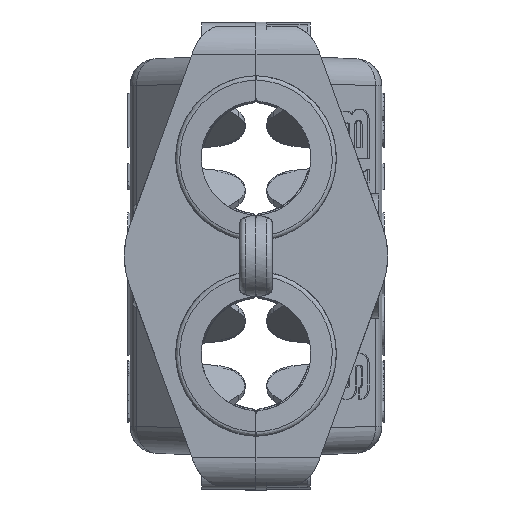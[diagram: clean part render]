
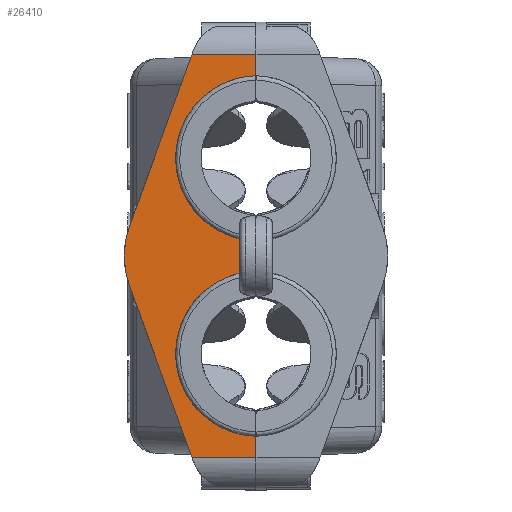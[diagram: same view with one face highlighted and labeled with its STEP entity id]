
A CAD part, left-side view. The second image highlights one B-rep face of the part: STEP entity #26410.
In plain terms, the highlighted planar face has unit normal (-1, 0, 0).
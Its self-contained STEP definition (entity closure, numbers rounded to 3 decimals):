
#225=DIRECTION('',(0.,0.,1.));
#226=VECTOR('',#225,4.);
#227=CARTESIAN_POINT('',(-47.5,0.,-18.55));
#228=LINE('',#227,#226);
#415=DIRECTION('',(0.,0.,1.));
#416=VECTOR('',#415,4.);
#417=CARTESIAN_POINT('',(-47.5,0.,14.55));
#418=LINE('',#417,#416);
#7492=DIRECTION('',(0.,-1.,0.));
#7493=VECTOR('',#7492,5.893);
#7494=CARTESIAN_POINT('',(-47.5,5.893,-18.55));
#7495=LINE('',#7494,#7493);
#7496=DIRECTION('',(0.,0.342,0.94));
#7497=VECTOR('',#7496,16.829);
#7498=CARTESIAN_POINT('',(-47.5,5.893,-18.55));
#7499=LINE('',#7498,#7497);
#7500=CARTESIAN_POINT('',(-47.5,4.131,0.));
#7501=DIRECTION('',(1.,0.,0.));
#7502=DIRECTION('',(0.,0.94,-0.342));
#7503=AXIS2_PLACEMENT_3D('',#7500,#7501,#7502);
#7505=DIRECTION('',(0.,-0.342,0.94));
#7506=VECTOR('',#7505,16.829);
#7507=CARTESIAN_POINT('',(-47.5,11.649,2.736));
#7508=LINE('',#7507,#7506);
#7509=DIRECTION('',(0.,-1.,0.));
#7510=VECTOR('',#7509,5.893);
#7511=CARTESIAN_POINT('',(-47.5,5.893,18.55));
#7512=LINE('',#7511,#7510);
#7513=CARTESIAN_POINT('',(-47.5,0.,9.));
#7514=DIRECTION('',(-1.,0.,0.));
#7515=DIRECTION('',(0.,0.,1.));
#7516=AXIS2_PLACEMENT_3D('',#7513,#7514,#7515);
#7518=DIRECTION('',(0.,0.,-1.));
#7519=VECTOR('',#7518,6.9);
#7520=CARTESIAN_POINT('',(-47.5,0.,3.45));
#7521=LINE('',#7520,#7519);
#7522=CARTESIAN_POINT('',(-47.5,0.,-9.));
#7523=DIRECTION('',(-1.,0.,0.));
#7524=DIRECTION('',(0.,0.,1.));
#7525=AXIS2_PLACEMENT_3D('',#7522,#7523,#7524);
#15526=CARTESIAN_POINT('',(-47.5,0.,3.45));
#15527=CARTESIAN_POINT('',(-47.5,0.,-3.45));
#15528=VERTEX_POINT('',#15526);
#15529=VERTEX_POINT('',#15527);
#15530=CARTESIAN_POINT('',(-47.5,0.,-14.55));
#15531=VERTEX_POINT('',#15530);
#15532=CARTESIAN_POINT('',(-47.5,0.,14.55));
#15533=VERTEX_POINT('',#15532);
#16125=CARTESIAN_POINT('',(-47.5,11.649,-2.736));
#16126=CARTESIAN_POINT('',(-47.5,11.649,2.736));
#16127=VERTEX_POINT('',#16125);
#16128=VERTEX_POINT('',#16126);
#16157=CARTESIAN_POINT('',(-47.5,0.,-18.55));
#16159=VERTEX_POINT('',#16157);
#16162=CARTESIAN_POINT('',(-47.5,0.,18.55));
#16164=VERTEX_POINT('',#16162);
#16165=CARTESIAN_POINT('',(-47.5,5.893,-18.55));
#16166=VERTEX_POINT('',#16165);
#16167=CARTESIAN_POINT('',(-47.5,5.893,18.55));
#16168=VERTEX_POINT('',#16167);
#26387=CARTESIAN_POINT('',(-47.5,1.,0.));
#26388=DIRECTION('',(1.,0.,0.));
#26389=DIRECTION('',(0.,1.,0.));
#26390=AXIS2_PLACEMENT_3D('',#26387,#26388,#26389);
#26391=PLANE('',#26390);
#26393=ORIENTED_EDGE('',*,*,#26392,.F.);
#26395=ORIENTED_EDGE('',*,*,#26394,.T.);
#26397=ORIENTED_EDGE('',*,*,#26396,.T.);
#26399=ORIENTED_EDGE('',*,*,#26398,.T.);
#26400=ORIENTED_EDGE('',*,*,#26377,.T.);
#26401=ORIENTED_EDGE('',*,*,#20405,.F.);
#26403=ORIENTED_EDGE('',*,*,#26402,.T.);
#26404=ORIENTED_EDGE('',*,*,#20195,.T.);
#26406=ORIENTED_EDGE('',*,*,#26405,.T.);
#26407=ORIENTED_EDGE('',*,*,#20239,.F.);
#26408=EDGE_LOOP('',(#26393,#26395,#26397,#26399,#26400,#26401,#26403,#26404,
#26406,#26407));
#26409=FACE_OUTER_BOUND('',#26408,.F.);
#7504=CIRCLE('',#7503,8.);
#7517=CIRCLE('',#7516,5.55);
#7526=CIRCLE('',#7525,5.55);
#20195=EDGE_CURVE('',#15528,#15529,#7521,.T.);
#20239=EDGE_CURVE('',#16159,#15531,#228,.T.);
#20405=EDGE_CURVE('',#15533,#16164,#418,.T.);
#26377=EDGE_CURVE('',#16168,#16164,#7512,.T.);
#26392=EDGE_CURVE('',#16166,#16159,#7495,.T.);
#26394=EDGE_CURVE('',#16166,#16127,#7499,.T.);
#26396=EDGE_CURVE('',#16127,#16128,#7504,.T.);
#26398=EDGE_CURVE('',#16128,#16168,#7508,.T.);
#26402=EDGE_CURVE('',#15533,#15528,#7517,.T.);
#26405=EDGE_CURVE('',#15529,#15531,#7526,.T.);
#26410=ADVANCED_FACE('',(#26409),#26391,.F.);
